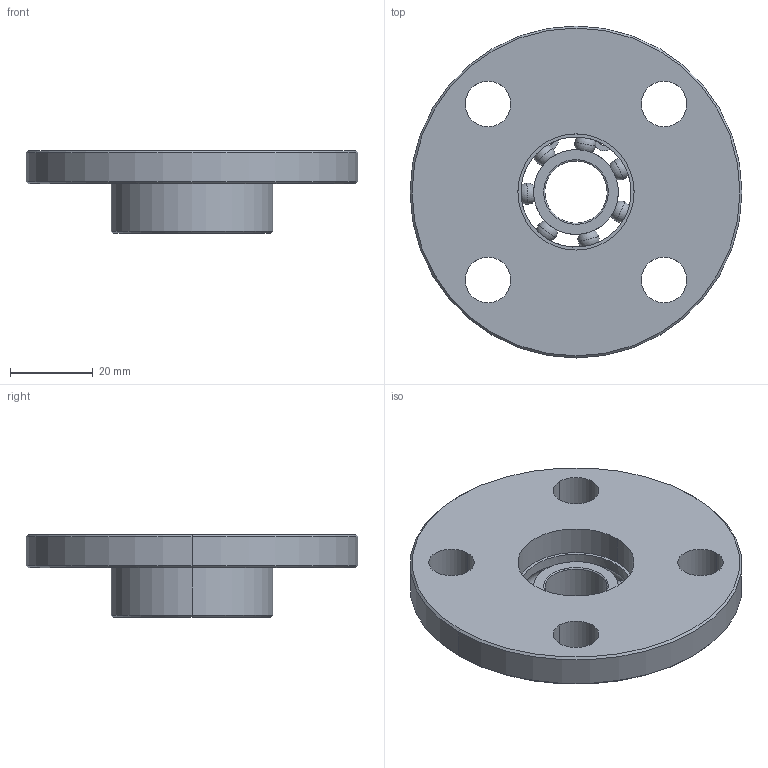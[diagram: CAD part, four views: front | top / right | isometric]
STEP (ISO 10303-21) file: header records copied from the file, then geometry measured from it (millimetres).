
FILE_DESCRIPTION (( 'STEP AP203' ), '1' );
FILE_NAME ('MJ2-EFM.STEP', '2024-01-15T15:29:03', ( '' ), ( '' ), 'SwSTEP 2.0', 'SolidWorks 2022', '' );
FILE_SCHEMA (( 'CONFIG_CONTROL_DESIGN' ));
Length unit declared in the file: millimetre
Products named in the file (1): MJ2-EFM
Bounding box: 80 x 80 x 20 mm (x, y, z)
Volume: 40879.6 mm3; surface area: 19471.4 mm2
Topology: 3 solids, 3 shells, 125 faces, 397 edges, 254 vertices
Faces by surface type: cylinder 44, torus 35, sphere 26, plane 14, cone 6
Entity records: 4085 total; most frequent: CARTESIAN_POINT 1041, DIRECTION 642, ORIENTED_EDGE 618, EDGE_CURVE 309, AXIS2_PLACEMENT_3D 293, VERTEX_POINT 208, CIRCLE 179, EDGE_LOOP 149
